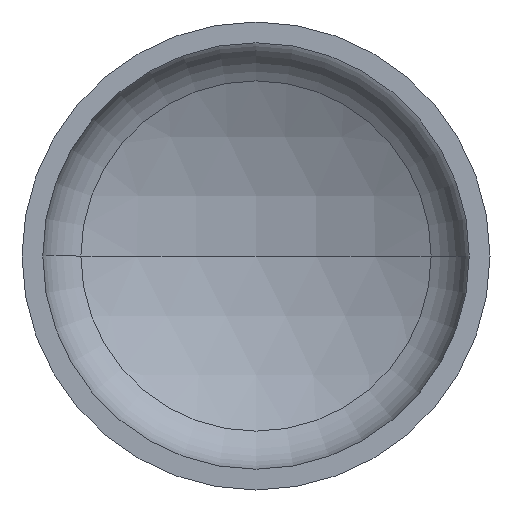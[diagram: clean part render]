
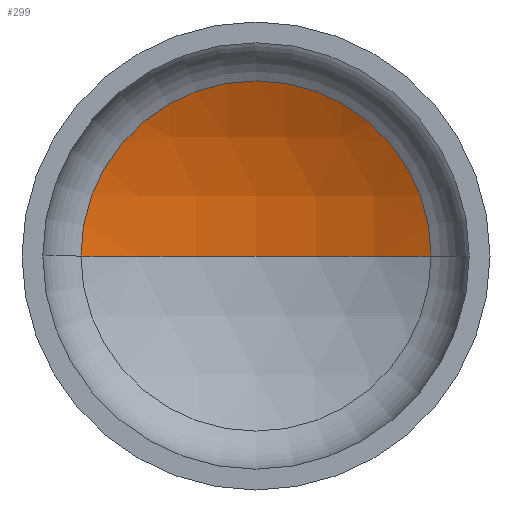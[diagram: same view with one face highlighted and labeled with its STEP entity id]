
A CAD part, front view. The second image highlights one B-rep face of the part: STEP entity #299.
In plain terms, the highlighted spherical face has radius 1440 mm.
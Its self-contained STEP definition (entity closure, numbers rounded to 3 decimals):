
#5 = AXIS2_PLACEMENT_3D ( 'NONE', #178, #114, #224 ) ;
#41 = VERTEX_POINT ( 'NONE', #280 ) ;
#45 = AXIS2_PLACEMENT_3D ( 'NONE', #244, #242, #150 ) ;
#49 = AXIS2_PLACEMENT_3D ( 'NONE', #256, #255, #274 ) ;
#62 = AXIS2_PLACEMENT_3D ( 'NONE', #190, #191, #214 ) ;
#114 = DIRECTION ( 'NONE',  ( 0., 0., -1. ) ) ;
#117 = EDGE_LOOP ( 'NONE', ( #208, #284, #303 ) ) ;
#150 = DIRECTION ( 'NONE',  ( 1., 0., 0. ) ) ;
#154 = CIRCLE ( 'NONE', #62, 673.648 ) ;
#158 = VERTEX_POINT ( 'NONE', #334 ) ;
#178 = CARTESIAN_POINT ( 'NONE',  ( 0., -909.66, 0. ) ) ;
#190 = CARTESIAN_POINT ( 'NONE',  ( 0., 363.053, 0. ) ) ;
#191 = DIRECTION ( 'NONE',  ( 0., -1., 0. ) ) ;
#200 = EDGE_CURVE ( 'NONE', #215, #41, #154, .T. ) ;
#205 = EDGE_CURVE ( 'NONE', #158, #215, #267, .T. ) ;
#208 = ORIENTED_EDGE ( 'NONE', *, *, #218, .F. ) ;
#210 = CARTESIAN_POINT ( 'NONE',  ( 673.648, 363.053, 0. ) ) ;
#214 = DIRECTION ( 'NONE',  ( 1., 0., 0. ) ) ;
#215 = VERTEX_POINT ( 'NONE', #210 ) ;
#218 = EDGE_CURVE ( 'NONE', #158, #41, #372, .T. ) ;
#224 = DIRECTION ( 'NONE',  ( -1., 0., 0. ) ) ;
#242 = DIRECTION ( 'NONE',  ( 0., 0., 1. ) ) ;
#244 = CARTESIAN_POINT ( 'NONE',  ( 0., -909.66, 0. ) ) ;
#255 = DIRECTION ( 'NONE',  ( 0., 0., -1. ) ) ;
#256 = CARTESIAN_POINT ( 'NONE',  ( 0., -909.66, 0. ) ) ;
#267 = CIRCLE ( 'NONE', #49, 1440. ) ;
#274 = DIRECTION ( 'NONE',  ( -1., 0., 0. ) ) ;
#280 = CARTESIAN_POINT ( 'NONE',  ( -673.648, 363.053, 0. ) ) ;
#284 = ORIENTED_EDGE ( 'NONE', *, *, #205, .T. ) ;
#297 = FACE_OUTER_BOUND ( 'NONE', #117, .T. ) ;
#299 = ADVANCED_FACE ( 'NONE', ( #297 ), #355, .F. ) ;
#303 = ORIENTED_EDGE ( 'NONE', *, *, #200, .T. ) ;
#334 = CARTESIAN_POINT ( 'NONE',  ( 0., 530.34, 0. ) ) ;
#355 = SPHERICAL_SURFACE ( 'NONE', #5, 1440. ) ;
#372 = CIRCLE ( 'NONE', #45, 1440. ) ;
